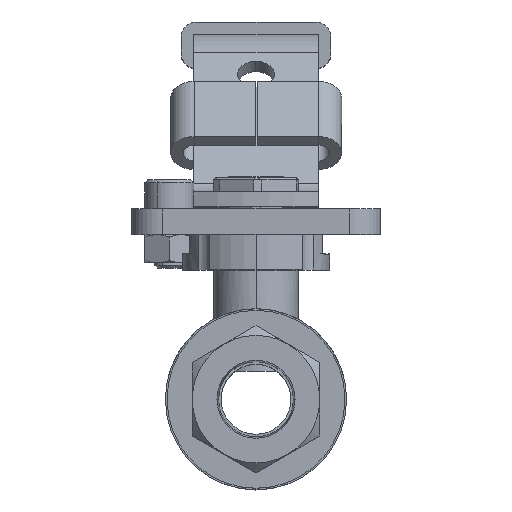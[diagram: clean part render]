
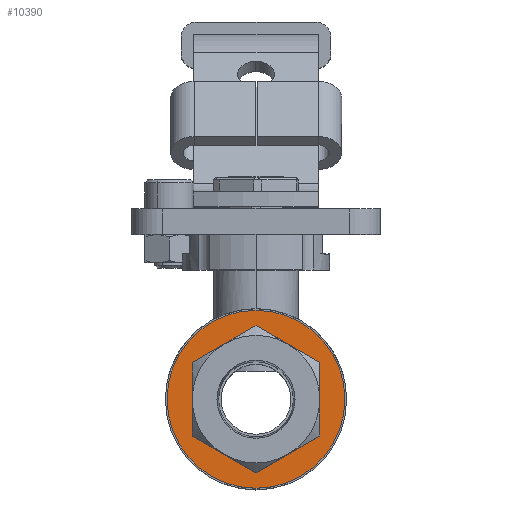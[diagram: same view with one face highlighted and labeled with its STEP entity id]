
A CAD part, top view. The second image highlights one B-rep face of the part: STEP entity #10390.
In plain terms, the highlighted planar face has unit normal (0, 0, 1).
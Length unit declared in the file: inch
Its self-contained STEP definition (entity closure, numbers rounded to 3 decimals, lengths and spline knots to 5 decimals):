
#197 = DIRECTION ( 'NONE',  ( 0., 0., 1. ) ) ;
#271 = CARTESIAN_POINT ( 'NONE',  ( 0., -0.59178, 1.0275 ) ) ;
#408 = DIRECTION ( 'NONE',  ( 0.866, 0.5, 0. ) ) ;
#508 = DIRECTION ( 'NONE',  ( -0.866, -0.5, 0. ) ) ;
#513 = AXIS2_PLACEMENT_3D ( 'NONE', #10132, #1920, #2926 ) ;
#749 = VERTEX_POINT ( 'NONE', #9344 ) ;
#899 = DIRECTION ( 'NONE',  ( 0., 0., 1. ) ) ;
#965 = CARTESIAN_POINT ( 'NONE',  ( 0., 0., 1.0275 ) ) ;
#1060 = CARTESIAN_POINT ( 'NONE',  ( 0.715, 0., 1.0275 ) ) ;
#1220 = CIRCLE ( 'NONE', #513, 0.715 ) ;
#1691 = FACE_BOUND ( 'NONE', #9578, .T. ) ;
#1693 = VERTEX_POINT ( 'NONE', #1060 ) ;
#1702 = DIRECTION ( 'NONE',  ( 1., 0., 0. ) ) ;
#1920 = DIRECTION ( 'NONE',  ( 0., 0., 1. ) ) ;
#2178 = CARTESIAN_POINT ( 'NONE',  ( -0.5125, 0.29589, 1.0275 ) ) ;
#2234 = VECTOR ( 'NONE', #5255, 39.37008 ) ;
#2255 = VECTOR ( 'NONE', #508, 39.37008 ) ;
#2322 = ORIENTED_EDGE ( 'NONE', *, *, #5650, .F. ) ;
#2380 = DIRECTION ( 'NONE',  ( 0., -1., 0. ) ) ;
#2777 = LINE ( 'NONE', #3709, #2234 ) ;
#2837 = AXIS2_PLACEMENT_3D ( 'NONE', #9067, #197, #1702 ) ;
#2926 = DIRECTION ( 'NONE',  ( 1., 0., 0. ) ) ;
#3016 = CARTESIAN_POINT ( 'NONE',  ( -0.5125, -0.29589, 1.0275 ) ) ;
#3388 = LINE ( 'NONE', #10139, #7934 ) ;
#3709 = CARTESIAN_POINT ( 'NONE',  ( -0.5125, -0.29589, 1.0275 ) ) ;
#3894 = CARTESIAN_POINT ( 'NONE',  ( -0.5125, 0.29589, 1.0275 ) ) ;
#3965 = ORIENTED_EDGE ( 'NONE', *, *, #6291, .F. ) ;
#4105 = VERTEX_POINT ( 'NONE', #3016 ) ;
#4249 = DIRECTION ( 'NONE',  ( -0.866, 0.5, 0. ) ) ;
#4322 = VERTEX_POINT ( 'NONE', #8675 ) ;
#4516 = EDGE_LOOP ( 'NONE', ( #5527, #6238 ) ) ;
#4644 = CARTESIAN_POINT ( 'NONE',  ( 0., 0.59178, 1.0275 ) ) ;
#4670 = AXIS2_PLACEMENT_3D ( 'NONE', #965, #899, #5778 ) ;
#4704 = CARTESIAN_POINT ( 'NONE',  ( 0.5125, -0.29589, 1.0275 ) ) ;
#4745 = VERTEX_POINT ( 'NONE', #7047 ) ;
#5022 = PLANE ( 'NONE',  #4670 ) ;
#5146 = VECTOR ( 'NONE', #7973, 39.37008 ) ;
#5255 = DIRECTION ( 'NONE',  ( 0.866, -0.5, 0. ) ) ;
#5462 = EDGE_CURVE ( 'NONE', #1693, #4322, #1220, .T. ) ;
#5502 = EDGE_CURVE ( 'NONE', #4105, #9838, #2777, .T. ) ;
#5503 = LINE ( 'NONE', #4644, #2255 ) ;
#5527 = ORIENTED_EDGE ( 'NONE', *, *, #9484, .T. ) ;
#5650 = EDGE_CURVE ( 'NONE', #8585, #749, #8855, .T. ) ;
#5722 = ORIENTED_EDGE ( 'NONE', *, *, #8255, .F. ) ;
#5778 = DIRECTION ( 'NONE',  ( 1., 0., 0. ) ) ;
#5944 = LINE ( 'NONE', #10232, #6191 ) ;
#6071 = VECTOR ( 'NONE', #2380, 39.37008 ) ;
#6191 = VECTOR ( 'NONE', #408, 39.37008 ) ;
#6238 = ORIENTED_EDGE ( 'NONE', *, *, #5462, .T. ) ;
#6291 = EDGE_CURVE ( 'NONE', #9838, #8585, #5944, .T. ) ;
#6344 = EDGE_CURVE ( 'NONE', #4745, #9677, #5503, .T. ) ;
#7047 = CARTESIAN_POINT ( 'NONE',  ( 0., 0.59178, 1.0275 ) ) ;
#7049 = ORIENTED_EDGE ( 'NONE', *, *, #8802, .F. ) ;
#7217 = LINE ( 'NONE', #2178, #6071 ) ;
#7543 = FACE_OUTER_BOUND ( 'NONE', #4516, .T. ) ;
#7934 = VECTOR ( 'NONE', #4249, 39.37008 ) ;
#7973 = DIRECTION ( 'NONE',  ( 0., 1., 0. ) ) ;
#8255 = EDGE_CURVE ( 'NONE', #749, #4745, #3388, .T. ) ;
#8585 = VERTEX_POINT ( 'NONE', #8806 ) ;
#8675 = CARTESIAN_POINT ( 'NONE',  ( -0.715, 0., 1.0275 ) ) ;
#8802 = EDGE_CURVE ( 'NONE', #9677, #4105, #7217, .T. ) ;
#8806 = CARTESIAN_POINT ( 'NONE',  ( 0.5125, -0.29589, 1.0275 ) ) ;
#8855 = LINE ( 'NONE', #4704, #5146 ) ;
#8900 = ORIENTED_EDGE ( 'NONE', *, *, #6344, .F. ) ;
#9067 = CARTESIAN_POINT ( 'NONE',  ( 0., 0., 1.0275 ) ) ;
#9344 = CARTESIAN_POINT ( 'NONE',  ( 0.5125, 0.29589, 1.0275 ) ) ;
#9484 = EDGE_CURVE ( 'NONE', #4322, #1693, #9738, .T. ) ;
#9578 = EDGE_LOOP ( 'NONE', ( #8900, #5722, #2322, #3965, #9857, #7049 ) ) ;
#9677 = VERTEX_POINT ( 'NONE', #3894 ) ;
#9738 = CIRCLE ( 'NONE', #2837, 0.715 ) ;
#9838 = VERTEX_POINT ( 'NONE', #271 ) ;
#9857 = ORIENTED_EDGE ( 'NONE', *, *, #5502, .F. ) ;
#10132 = CARTESIAN_POINT ( 'NONE',  ( 0., 0., 1.0275 ) ) ;
#10139 = CARTESIAN_POINT ( 'NONE',  ( 0.5125, 0.29589, 1.0275 ) ) ;
#10232 = CARTESIAN_POINT ( 'NONE',  ( 0., -0.59178, 1.0275 ) ) ;
#10390 = ADVANCED_FACE ( 'NONE', ( #7543, #1691 ), #5022, .T. ) ;
